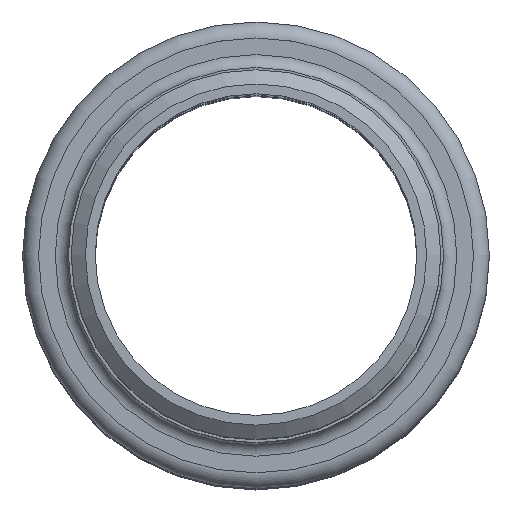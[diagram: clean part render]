
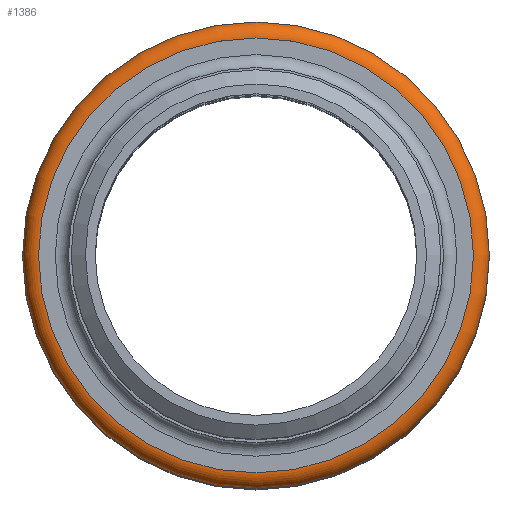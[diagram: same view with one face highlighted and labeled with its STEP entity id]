
A CAD part, top view. The second image highlights one B-rep face of the part: STEP entity #1386.
In plain terms, the highlighted toroidal (fillet/blend) face has major radius 35.49 mm and minor radius 2.61 mm.
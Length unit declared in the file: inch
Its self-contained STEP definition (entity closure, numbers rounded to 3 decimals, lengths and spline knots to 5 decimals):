
#104=TOROIDAL_SURFACE('',#1687,1.39725,0.10275);
#257=FACE_OUTER_BOUND('',#417,.T.);
#417=EDGE_LOOP('',(#1170,#1171,#1172,#1173));
#585=CIRCLE('',#1686,1.39725);
#586=CIRCLE('',#1688,1.39725);
#587=CIRCLE('',#1689,0.10275);
#704=VERTEX_POINT('',#2635);
#705=VERTEX_POINT('',#2638);
#863=EDGE_CURVE('',#704,#704,#585,.T.);
#864=EDGE_CURVE('',#705,#705,#586,.T.);
#865=EDGE_CURVE('',#705,#704,#587,.T.);
#1170=ORIENTED_EDGE('',*,*,#864,.F.);
#1171=ORIENTED_EDGE('',*,*,#865,.T.);
#1172=ORIENTED_EDGE('',*,*,#863,.T.);
#1173=ORIENTED_EDGE('',*,*,#865,.F.);
#1386=ADVANCED_FACE('',(#257),#104,.T.);
#1686=AXIS2_PLACEMENT_3D('',#2636,#2201,#2202);
#1687=AXIS2_PLACEMENT_3D('',#2637,#2203,#2204);
#1688=AXIS2_PLACEMENT_3D('',#2639,#2205,#2206);
#1689=AXIS2_PLACEMENT_3D('',#2640,#2207,#2208);
#2201=DIRECTION('center_axis',(0.,0.,-1.));
#2202=DIRECTION('ref_axis',(1.,0.,0.));
#2203=DIRECTION('center_axis',(0.,0.,-1.));
#2204=DIRECTION('ref_axis',(-1.,0.,0.));
#2205=DIRECTION('center_axis',(0.,0.,-1.));
#2206=DIRECTION('ref_axis',(1.,0.,0.));
#2207=DIRECTION('center_axis',(0.,-1.,0.));
#2208=DIRECTION('ref_axis',(1.,0.,0.));
#2635=CARTESIAN_POINT('',(1.39725,0.,-0.08475));
#2636=CARTESIAN_POINT('Origin',(0.,0.,-0.08475));
#2637=CARTESIAN_POINT('Origin',(0.,0.,-0.1875));
#2638=CARTESIAN_POINT('',(1.39725,0.,-0.29025));
#2639=CARTESIAN_POINT('Origin',(0.,0.,-0.29025));
#2640=CARTESIAN_POINT('Origin',(1.39725,0.,-0.1875));
